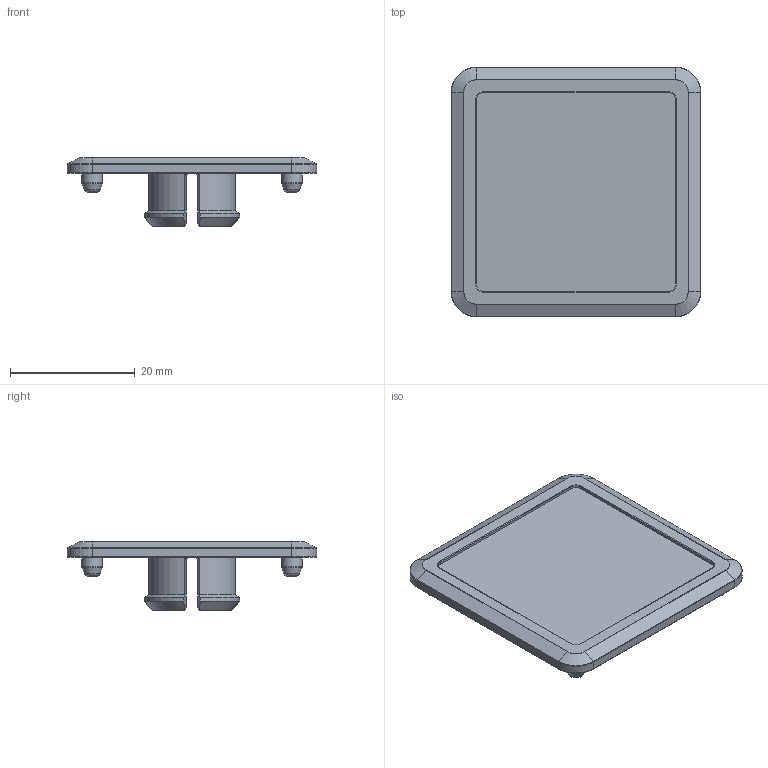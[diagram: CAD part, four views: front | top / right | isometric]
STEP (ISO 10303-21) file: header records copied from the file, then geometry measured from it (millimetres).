
FILE_DESCRIPTION(/* description */ (''),/* implementation_level */ '2;1');
FILE_NAME(/* name */ '2927-0014-0001 NORMALIZED.step',/* time_stamp */ '2024-04-22T08:53:29-05:00',/* author */ (''),/* organization */ (''),/* preprocessor_version */ 'ST-DEVELOPER v20',/* originating_system */ 'Autodesk Translation Framework v12.20.1.177',/* authorisation */ '');
FILE_SCHEMA (('AUTOMOTIVE_DESIGN { 1 0 10303 214 3 1 1 }'));
Length unit declared in the file: millimetre
Products named in the file (1): 2927-0014-0001 NORMALIZED
Bounding box: 40 x 40 x 11 mm (x, y, z)
Volume: 3239 mm3; surface area: 4321 mm2
Topology: 1 solids, 1 shells, 413 faces, 1060 edges, 667 vertices
Faces by surface type: plane 132, bspline 126, cylinder 85, torus 54, cone 16
Full cylindrical faces by diameter (mm): 3.3 x4, 14 x1
Entity records: 14966 total; most frequent: CARTESIAN_POINT 5681, ORIENTED_EDGE 2104, DIRECTION 1609, EDGE_CURVE 1052, VERTEX_POINT 667, AXIS2_PLACEMENT_3D 545, LINE 519, VECTOR 519
